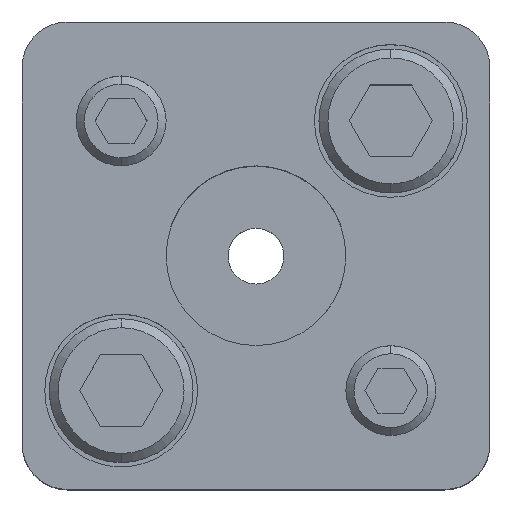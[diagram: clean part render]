
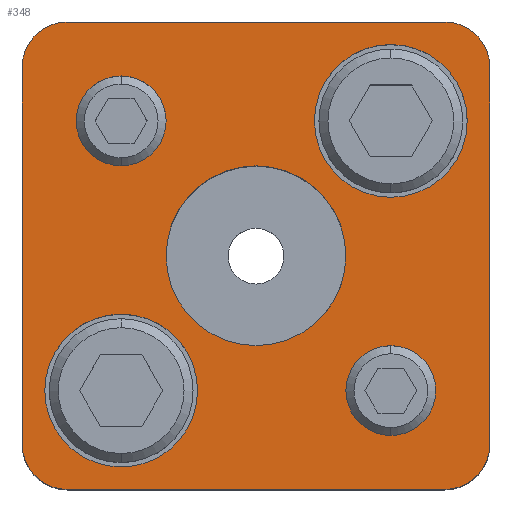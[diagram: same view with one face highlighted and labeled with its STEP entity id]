
A CAD part, top view. The second image highlights one B-rep face of the part: STEP entity #348.
In plain terms, the highlighted planar face has unit normal (0, 0, 1).
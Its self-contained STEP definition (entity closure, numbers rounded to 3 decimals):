
#173=PLANE('',#2995);
#248=FACE_BOUND('',#745,.T.);
#249=FACE_BOUND('',#746,.T.);
#250=FACE_BOUND('',#747,.T.);
#251=FACE_BOUND('',#748,.T.);
#252=FACE_BOUND('',#749,.T.);
#253=FACE_BOUND('',#750,.T.);
#348=ADVANCED_FACE('',(#248,#249,#250,#251,#252,#253),#173,.T.);
#745=EDGE_LOOP('',(#1597,#1598,#1599,#1600,#1601,#1602,#1603,#1604));
#746=EDGE_LOOP('',(#1605,#1606));
#747=EDGE_LOOP('',(#1607,#1608));
#748=EDGE_LOOP('',(#1609,#1610));
#749=EDGE_LOOP('',(#1611,#1612));
#750=EDGE_LOOP('',(#1613,#1614));
#934=LINE('',#4428,#1142);
#935=LINE('',#4432,#1143);
#936=LINE('',#4436,#1144);
#937=LINE('',#4440,#1145);
#1142=VECTOR('',#3559,1.);
#1143=VECTOR('',#3562,1.);
#1144=VECTOR('',#3565,1.);
#1145=VECTOR('',#3568,1.);
#1597=ORIENTED_EDGE('',*,*,#2454,.T.);
#1598=ORIENTED_EDGE('',*,*,#2455,.T.);
#1599=ORIENTED_EDGE('',*,*,#2456,.T.);
#1600=ORIENTED_EDGE('',*,*,#2457,.T.);
#1601=ORIENTED_EDGE('',*,*,#2458,.T.);
#1602=ORIENTED_EDGE('',*,*,#2459,.T.);
#1603=ORIENTED_EDGE('',*,*,#2460,.T.);
#1604=ORIENTED_EDGE('',*,*,#2461,.T.);
#1605=ORIENTED_EDGE('',*,*,#2462,.F.);
#1606=ORIENTED_EDGE('',*,*,#2463,.F.);
#1607=ORIENTED_EDGE('',*,*,#2464,.F.);
#1608=ORIENTED_EDGE('',*,*,#2465,.F.);
#1609=ORIENTED_EDGE('',*,*,#2440,.F.);
#1610=ORIENTED_EDGE('',*,*,#2436,.F.);
#1611=ORIENTED_EDGE('',*,*,#2434,.F.);
#1612=ORIENTED_EDGE('',*,*,#2430,.F.);
#1613=ORIENTED_EDGE('',*,*,#2466,.T.);
#1614=ORIENTED_EDGE('',*,*,#2467,.T.);
#2135=VERTEX_POINT('',#4376);
#2136=VERTEX_POINT('',#4377);
#2139=VERTEX_POINT('',#4389);
#2140=VERTEX_POINT('',#4390);
#2151=VERTEX_POINT('',#4426);
#2152=VERTEX_POINT('',#4427);
#2153=VERTEX_POINT('',#4429);
#2154=VERTEX_POINT('',#4431);
#2155=VERTEX_POINT('',#4433);
#2156=VERTEX_POINT('',#4435);
#2157=VERTEX_POINT('',#4437);
#2158=VERTEX_POINT('',#4439);
#2159=VERTEX_POINT('',#4442);
#2160=VERTEX_POINT('',#4443);
#2161=VERTEX_POINT('',#4446);
#2162=VERTEX_POINT('',#4447);
#2163=VERTEX_POINT('',#4450);
#2164=VERTEX_POINT('',#4451);
#2430=EDGE_CURVE('',#2135,#2136,#2735,.T.);
#2434=EDGE_CURVE('',#2136,#2135,#2737,.T.);
#2436=EDGE_CURVE('',#2139,#2140,#2739,.T.);
#2440=EDGE_CURVE('',#2140,#2139,#2741,.T.);
#2454=EDGE_CURVE('',#2151,#2152,#2751,.T.);
#2455=EDGE_CURVE('',#2152,#2153,#934,.T.);
#2456=EDGE_CURVE('',#2153,#2154,#2752,.T.);
#2457=EDGE_CURVE('',#2154,#2155,#935,.T.);
#2458=EDGE_CURVE('',#2155,#2156,#2753,.T.);
#2459=EDGE_CURVE('',#2156,#2157,#936,.T.);
#2460=EDGE_CURVE('',#2157,#2158,#2754,.T.);
#2461=EDGE_CURVE('',#2158,#2151,#937,.T.);
#2462=EDGE_CURVE('',#2159,#2160,#2755,.T.);
#2463=EDGE_CURVE('',#2160,#2159,#2756,.T.);
#2464=EDGE_CURVE('',#2161,#2162,#2757,.T.);
#2465=EDGE_CURVE('',#2162,#2161,#2758,.T.);
#2466=EDGE_CURVE('',#2163,#2164,#2759,.T.);
#2467=EDGE_CURVE('',#2164,#2163,#2760,.T.);
#2735=CIRCLE('',#2959,5.);
#2737=CIRCLE('',#2962,5.);
#2739=CIRCLE('',#2966,5.);
#2741=CIRCLE('',#2969,5.);
#2751=CIRCLE('',#2985,5.);
#2752=CIRCLE('',#2986,5.);
#2753=CIRCLE('',#2987,5.);
#2754=CIRCLE('',#2988,5.);
#2755=CIRCLE('',#2989,8.5);
#2756=CIRCLE('',#2990,8.5);
#2757=CIRCLE('',#2991,8.5);
#2758=CIRCLE('',#2992,8.5);
#2759=CIRCLE('',#2993,10.);
#2760=CIRCLE('',#2994,10.);
#2959=AXIS2_PLACEMENT_3D('',#4375,#3497,#3498);
#2962=AXIS2_PLACEMENT_3D('',#4384,#3505,#3506);
#2966=AXIS2_PLACEMENT_3D('',#4388,#3513,#3514);
#2969=AXIS2_PLACEMENT_3D('',#4397,#3521,#3522);
#2985=AXIS2_PLACEMENT_3D('',#4425,#3557,#3558);
#2986=AXIS2_PLACEMENT_3D('',#4430,#3560,#3561);
#2987=AXIS2_PLACEMENT_3D('',#4434,#3563,#3564);
#2988=AXIS2_PLACEMENT_3D('',#4438,#3566,#3567);
#2989=AXIS2_PLACEMENT_3D('',#4441,#3569,#3570);
#2990=AXIS2_PLACEMENT_3D('',#4444,#3571,#3572);
#2991=AXIS2_PLACEMENT_3D('',#4445,#3573,#3574);
#2992=AXIS2_PLACEMENT_3D('',#4448,#3575,#3576);
#2993=AXIS2_PLACEMENT_3D('',#4449,#3577,#3578);
#2994=AXIS2_PLACEMENT_3D('',#4452,#3579,#3580);
#2995=AXIS2_PLACEMENT_3D('',#4453,#3581,#3582);
#3497=DIRECTION('',(0.,0.,1.));
#3498=DIRECTION('',(-1.,0.,0.));
#3505=DIRECTION('',(0.,0.,1.));
#3506=DIRECTION('',(1.,0.,0.));
#3513=DIRECTION('',(0.,0.,1.));
#3514=DIRECTION('',(-1.,0.,0.));
#3521=DIRECTION('',(0.,0.,1.));
#3522=DIRECTION('',(1.,0.,0.));
#3557=DIRECTION('',(0.,0.,1.));
#3558=DIRECTION('',(-0.707,0.707,0.));
#3559=DIRECTION('',(0.,1.,0.));
#3560=DIRECTION('',(0.,0.,1.));
#3561=DIRECTION('',(-0.707,-0.707,0.));
#3562=DIRECTION('',(-1.,0.,0.));
#3563=DIRECTION('',(0.,0.,1.));
#3564=DIRECTION('',(0.707,-0.707,0.));
#3565=DIRECTION('',(0.,-1.,0.));
#3566=DIRECTION('',(0.,0.,1.));
#3567=DIRECTION('',(0.707,0.707,0.));
#3568=DIRECTION('',(1.,0.,0.));
#3569=DIRECTION('',(0.,0.,1.));
#3570=DIRECTION('',(1.,0.,0.));
#3571=DIRECTION('',(0.,0.,1.));
#3572=DIRECTION('',(-1.,0.,0.));
#3573=DIRECTION('',(0.,0.,1.));
#3574=DIRECTION('',(1.,0.,0.));
#3575=DIRECTION('',(0.,0.,1.));
#3576=DIRECTION('',(-1.,0.,0.));
#3577=DIRECTION('',(0.,0.,-1.));
#3578=DIRECTION('',(-1.,0.,0.));
#3579=DIRECTION('',(0.,0.,-1.));
#3580=DIRECTION('',(1.,0.,0.));
#3581=DIRECTION('',(0.,0.,1.));
#3582=DIRECTION('',(-1.,0.,0.));
#4375=CARTESIAN_POINT('',(15.,-15.,35.));
#4376=CARTESIAN_POINT('',(15.,-20.,35.));
#4377=CARTESIAN_POINT('',(15.,-10.,35.));
#4384=CARTESIAN_POINT('',(15.,-15.,35.));
#4388=CARTESIAN_POINT('',(-15.,15.,35.));
#4389=CARTESIAN_POINT('',(-15.,10.,35.));
#4390=CARTESIAN_POINT('',(-15.,20.,35.));
#4397=CARTESIAN_POINT('',(-15.,15.,35.));
#4425=CARTESIAN_POINT('',(21.,-21.,35.));
#4426=CARTESIAN_POINT('',(21.,-26.,35.));
#4427=CARTESIAN_POINT('',(26.,-21.,35.));
#4428=CARTESIAN_POINT('',(26.,21.,35.));
#4429=CARTESIAN_POINT('',(26.,21.,35.));
#4430=CARTESIAN_POINT('',(21.,21.,35.));
#4431=CARTESIAN_POINT('',(21.,26.,35.));
#4432=CARTESIAN_POINT('',(-21.,26.,35.));
#4433=CARTESIAN_POINT('',(-21.,26.,35.));
#4434=CARTESIAN_POINT('',(-21.,21.,35.));
#4435=CARTESIAN_POINT('',(-26.,21.,35.));
#4436=CARTESIAN_POINT('',(-26.,21.,35.));
#4437=CARTESIAN_POINT('',(-26.,-21.,35.));
#4438=CARTESIAN_POINT('',(-21.,-21.,35.));
#4439=CARTESIAN_POINT('',(-21.,-26.,35.));
#4440=CARTESIAN_POINT('',(-21.,-26.,35.));
#4441=CARTESIAN_POINT('',(15.,15.,35.));
#4442=CARTESIAN_POINT('',(15.,23.5,35.));
#4443=CARTESIAN_POINT('',(15.,6.5,35.));
#4444=CARTESIAN_POINT('',(15.,15.,35.));
#4445=CARTESIAN_POINT('',(-15.,-15.,35.));
#4446=CARTESIAN_POINT('',(-15.,-6.5,35.));
#4447=CARTESIAN_POINT('',(-15.,-23.5,35.));
#4448=CARTESIAN_POINT('',(-15.,-15.,35.));
#4449=CARTESIAN_POINT('',(0.,0.,35.));
#4450=CARTESIAN_POINT('',(0.,10.,35.));
#4451=CARTESIAN_POINT('',(0.,-10.,35.));
#4452=CARTESIAN_POINT('',(0.,0.,35.));
#4453=CARTESIAN_POINT('',(21.,-26.,35.));
